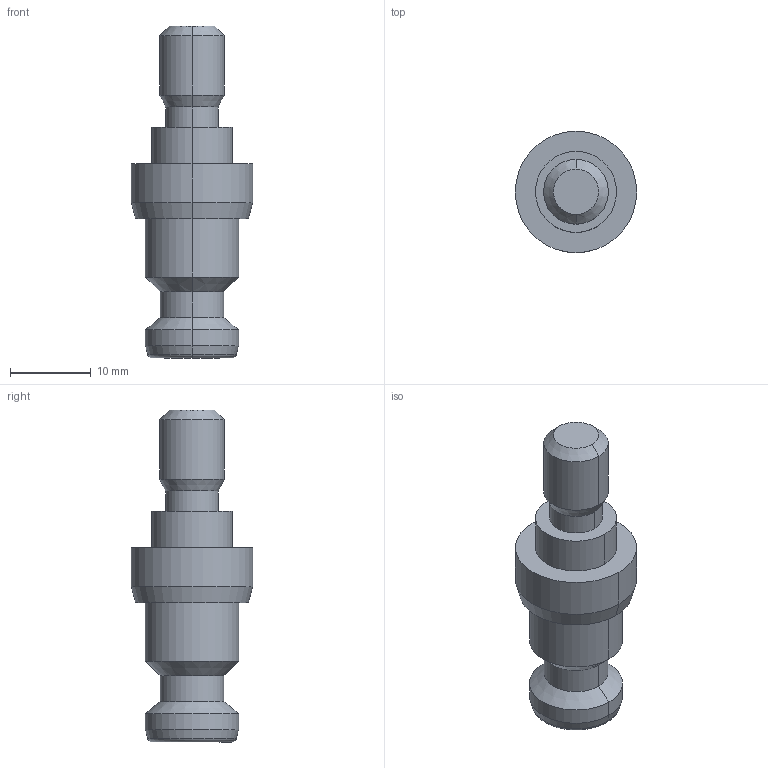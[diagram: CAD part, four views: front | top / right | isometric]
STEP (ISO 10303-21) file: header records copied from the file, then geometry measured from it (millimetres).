
FILE_DESCRIPTION (( 'STEP AP203' ), '1' );
FILE_NAME ('QLPDW85-M8L.STEP', '2024-11-08T06:23:28', ( '' ), ( '' ), 'SwSTEP 2.0', 'SolidWorks 2023', '' );
FILE_SCHEMA (( 'CONFIG_CONTROL_DESIGN' ));
Length unit declared in the file: millimetre
Products named in the file (1): QLPDW85-M8L
Bounding box: 15 x 15 x 41 mm (x, y, z)
Volume: 3548 mm3; surface area: 1729 mm2
Topology: 1 solids, 1 shells, 40 faces, 82 edges, 48 vertices
Faces by surface type: cylinder 14, cone 12, plane 12, torus 2
Entity records: 1121 total; most frequent: DIRECTION 202, CARTESIAN_POINT 171, ORIENTED_EDGE 164, EDGE_CURVE 82, AXIS2_PLACEMENT_3D 79, VERTEX_POINT 48, EDGE_LOOP 44, VECTOR 44
